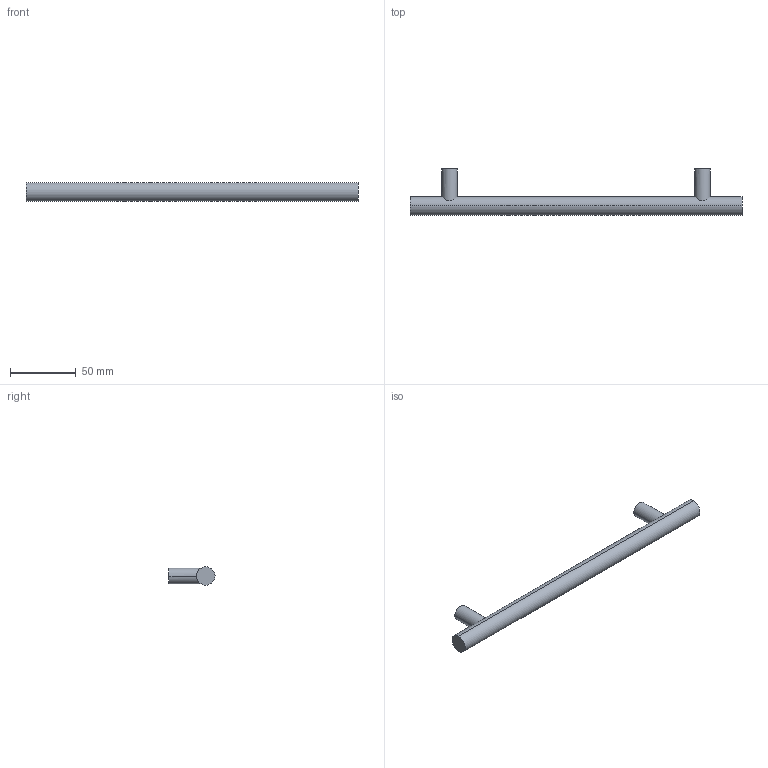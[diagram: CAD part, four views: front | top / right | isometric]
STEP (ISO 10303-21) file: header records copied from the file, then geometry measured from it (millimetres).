
FILE_DESCRIPTION( ( '' ), '1' );
FILE_NAME( 'D:/1.AUTOCAD EXPORT/Group 10/sheet_10_1/9071050.stp', '2013-10-21T09:16:56', ( '' ), ( '' ), ' ', ' ', ' ' );
FILE_SCHEMA( ( 'automotive_design' ) );
Length unit declared in the file: millimetre
Products named in the file (1): 1
Bounding box: 252 x 35 x 14 mm (x, y, z)
Volume: 43404.4 mm3; surface area: 13363.3 mm2
Topology: 1 solids, 1 shells, 16 faces, 32 edges, 22 vertices
Faces by surface type: cylinder 10, plane 6
Entity records: 972 total; most frequent: CARTESIAN_POINT 205, DIRECTION 76, STYLED_ITEM 71, PRESENTATION_STYLE_ASSIGNMENT 71, COLOUR_RGB 71, ORIENTED_EDGE 64, AXIS2_PLACEMENT_3D 33, EDGE_CURVE 32
